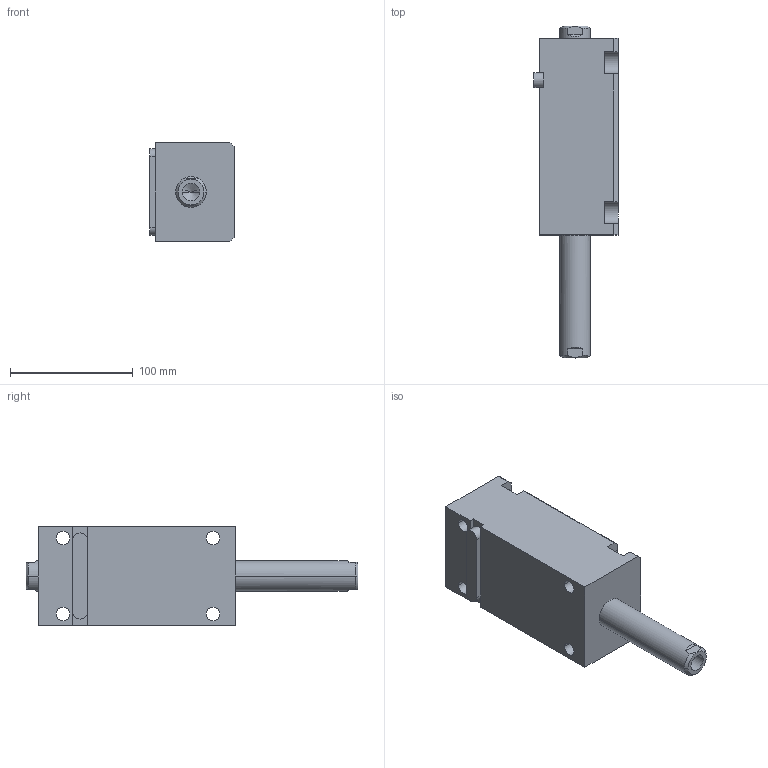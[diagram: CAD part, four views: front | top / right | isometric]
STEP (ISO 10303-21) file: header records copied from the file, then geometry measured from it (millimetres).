
FILE_DESCRIPTION (( 'STEP AP214' ), '1' );
FILE_NAME ('chtb-lw40x90n_asm.STEP', '2018-06-05T02:32:05', ( 'Windows' ), ( 'Microsoft' ), 'SwSTEP 2.0', 'SolidWorks 2015', '' );
FILE_SCHEMA (( 'AUTOMOTIVE_DESIGN' ));
Length unit declared in the file: millimetre
Products named in the file (5): CHTB-LW40X90NBT; CHTB-LA40PJ; chtb-lw40x90n_asm; CHTB-SW40X90NHSG; CHTB-SD40QG
Assembly tree (4 placements, depth 2):
  chtb-lw40x90n_asm
    CHTB-LA40PJ
    CHTB-LW40X90NBT
    CHTB-SD40QG
    CHTB-SW40X90NHSG
Bounding box: 68.5 x 270 x 80 mm (x, y, z)
Volume: 760166.7 mm3; surface area: 123380.4 mm2
Topology: 4 solids, 4 shells, 172 faces, 462 edges, 304 vertices
Faces by surface type: cylinder 77, plane 52, cone 17, bspline 14, torus 12
Entity records: 10654 total; most frequent: CARTESIAN_POINT 6188, ORIENTED_EDGE 904, DIRECTION 853, EDGE_CURVE 452, AXIS2_PLACEMENT_3D 340, VERTEX_POINT 304, EDGE_LOOP 204, CIRCLE 175
